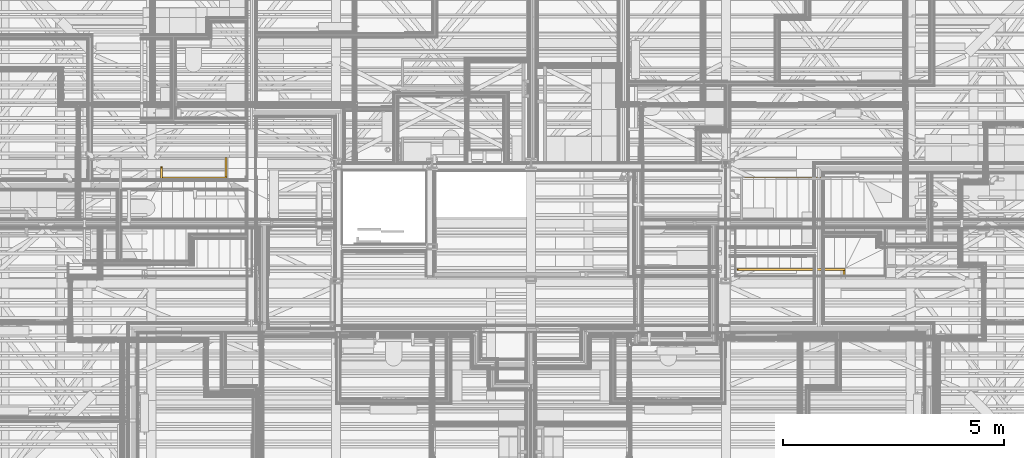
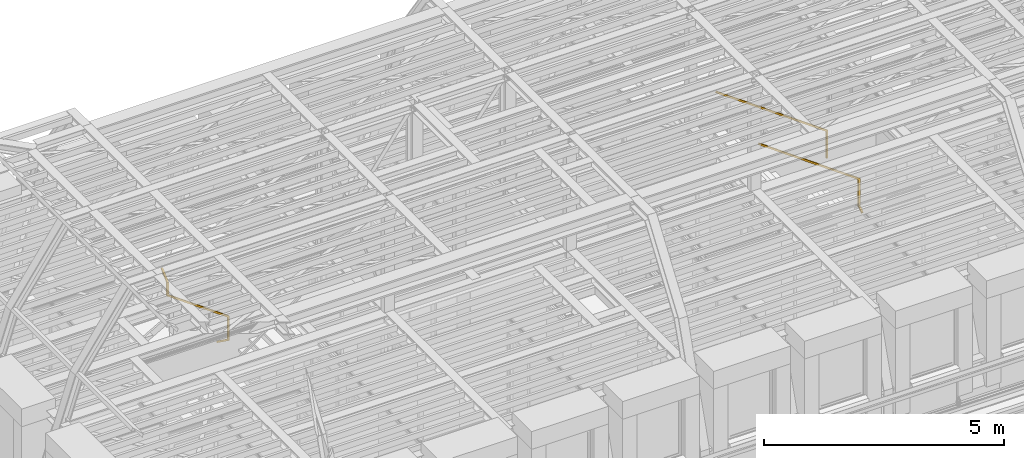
# One storey, part 157 of 183: 3 railings.
"""IFC2X3 building model written with IfcOpenShell, lengths in metres."""

import ifcopenshell
import ifcopenshell.guid

model = None  # the IFC model being written
_history = None  # IfcOwnerHistory: only IFC2X3 demands one
_inside = {}  # id of a spatial element -> (the spatial element, [elements in it])
_under = {}  # id of a project, library or spatial element -> (it, [spatial elements below it])
_declared = {}  # id of a project -> (the project, [libraries it declares])
_typed = {}  # id of a type object -> (the type object, [elements of that type])
_made_of = {}  # id of a material, layer set ... -> (it, [elements and type objects made of it])


def new_model(schema):
    """Start an empty IFC model of exactly this schema.

    Asked for "IFC4X3", IfcOpenShell would pick the latest addendum, in which some entities
    have other attributes; the version numbers below select the first issue.
    IFC2X3 requires an IfcOwnerHistory on every rooted entity: one is made here for all.
    """
    global model, _history
    if schema == "IFC4X3":
        model = ifcopenshell.file(schema_version=(4, 3, 0, 0))
    else:
        model = ifcopenshell.file(schema=schema)
    _inside.clear()
    _under.clear()
    _declared.clear()
    _typed.clear()
    _made_of.clear()
    _history = None
    if model.schema == "IFC2X3":
        org = make("IfcOrganization", Name="unknown")
        user = make(
            "IfcPersonAndOrganization",
            ThePerson=make("IfcPerson", FamilyName="unknown"),
            TheOrganization=org,
        )
        app = make(
            "IfcApplication",
            ApplicationDeveloper=org,
            Version="unknown",
            ApplicationFullName="unknown",
            ApplicationIdentifier="unknown",
        )
        _history = make(
            "IfcOwnerHistory",
            OwningUser=user,
            OwningApplication=app,
            ChangeAction="ADDED",
            CreationDate=0,
        )
    return model


def make(cls, **values):
    """One entity of the class cls with the attributes given. An attribute that is None is left unset."""
    return model.create_entity(
        cls, **{name: value for name, value in values.items() if value is not None}
    )


def entity(cls, *values):
    """Any entity or typed value of the class cls, its attributes in the order of the schema. None: left unset."""
    e = model.create_entity(cls)
    for i, value in enumerate(values):
        if value is not None:
            e[i] = value
    return e


def rooted(cls, **values):
    """An entity with a GlobalId (a new one), such as an element, a storey or a relation."""
    return make(cls, GlobalId=ifcopenshell.guid.new(), OwnerHistory=_history, **values)


def si_unit(unit_type, name, prefix=None):
    """IfcSIUnit, for example si_unit("LENGTHUNIT", "METRE", prefix="MILLI")."""
    return make("IfcSIUnit", UnitType=unit_type, Prefix=prefix, Name=name)


def converted_unit(unit_type, name, factor, base, dimensions=None, offset=None):
    """IfcConversionBasedUnit, such as the inch: factor (a typed value) times the base unit."""
    return make(
        "IfcConversionBasedUnit"
        if offset is None
        else "IfcConversionBasedUnitWithOffset",
        ConversionOffset=offset,
        Dimensions=None
        if dimensions is None
        else entity("IfcDimensionalExponents", *dimensions),
        UnitType=unit_type,
        Name=name,
        ConversionFactor=make(
            "IfcMeasureWithUnit", ValueComponent=factor, UnitComponent=base
        ),
    )


def derived_unit(unit_type, elements):
    """IfcDerivedUnit: a product of units, each with its exponent."""
    return make(
        "IfcDerivedUnit",
        Elements=[
            make("IfcDerivedUnitElement", Unit=unit, Exponent=power)
            for unit, power in elements
        ],
        UnitType=unit_type,
    )


def money_unit(currency):
    """IfcMonetaryUnit."""
    return make("IfcMonetaryUnit", Currency=currency)


def assignment(units):
    """IfcUnitAssignment: the units of a project."""
    return None if units is None else make("IfcUnitAssignment", Units=units)


def point(xyz):
    """IfcCartesianPoint."""
    return None if xyz is None else make("IfcCartesianPoint", Coordinates=xyz)


def direction(xyz):
    """IfcDirection."""
    return None if xyz is None else make("IfcDirection", DirectionRatios=xyz)


def frame(location, z_axis=None, x_axis=None):
    """IfcAxis2Placement3D, a coordinate frame: its origin and axes. An axis left out is left unset."""
    return make(
        "IfcAxis2Placement3D",
        Location=point(location),
        Axis=direction(z_axis),
        RefDirection=direction(x_axis),
    )


def origin_with_axes():
    """The frame at (0, 0, 0) with the z axis (0, 0, 1) and the x axis (1, 0, 0) written out."""
    return frame((0.0, 0.0, 0.0), z_axis=(0.0, 0.0, 1.0), x_axis=(1.0, 0.0, 0.0))


def place(relative_to, where):
    """IfcLocalPlacement: puts the frame where relative to a parent placement (None: the world)."""
    return make(
        "IfcLocalPlacement", PlacementRelTo=relative_to, RelativePlacement=where
    )


def context(
    kind, dimensions, precision=None, world=None, true_north=None, identifier=None
):
    """IfcGeometricRepresentationContext, for example the 3D "Model" context."""
    return make(
        "IfcGeometricRepresentationContext",
        ContextIdentifier=identifier,
        ContextType=kind,
        CoordinateSpaceDimension=dimensions,
        Precision=precision,
        WorldCoordinateSystem=world,
        TrueNorth=true_north,
    )


def subcontext(parent, identifier, kind, view, scale=None):
    """IfcGeometricRepresentationSubContext, for example "Body" below "Model"."""
    return make(
        "IfcGeometricRepresentationSubContext",
        ContextIdentifier=identifier,
        ContextType=kind,
        ParentContext=parent,
        TargetScale=scale,
        TargetView=view,
    )


def project(units=None, contexts=None):
    """IfcProject with its units and contexts."""
    return rooted(
        "IfcProject",
        Name="project",
        RepresentationContexts=contexts,
        UnitsInContext=assignment(units),
    )


def spatial(cls, under=None, at=None, **own):
    """A site, building, storey or space (cls), placed at a placement, below another one or the project."""
    s = rooted(cls, ObjectPlacement=at, **own)
    if under is not None:
        _under.setdefault(under.id(), (under, []))[1].append(s)
    return s


def faces_of(points, faces, orient=None, outer=None):
    """IfcFace entities. A face is a list of loops; a loop is a list of indices into points, from 0.

    orient and outer hold one flag for each loop. By default every Orientation is true, the
    first loop of a face is its IfcFaceOuterBound and the others are IfcFaceBound.
    """
    made = []
    for i, loops in enumerate(faces):
        bounds = []
        for j, loop in enumerate(loops):
            is_outer = j == 0 if outer is None else outer[i][j]
            bounds.append(
                make(
                    "IfcFaceOuterBound" if is_outer else "IfcFaceBound",
                    Bound=make("IfcPolyLoop", Polygon=[points[k] for k in loop]),
                    Orientation=True if orient is None else orient[i][j],
                )
            )
        made.append(make("IfcFace", Bounds=bounds))
    return made


def faceted_brep(points, faces, orient=None, outer=None, voids=None):
    """IfcFacetedBrep: a solid bounded by flat faces; with voids (closed shells), ...WithVoids."""
    shared = [point(p) for p in points]
    hull = make("IfcClosedShell", CfsFaces=faces_of(shared, faces, orient, outer))
    if voids is None:
        return make("IfcFacetedBrep", Outer=hull)
    return make(
        "IfcFacetedBrepWithVoids",
        Outer=hull,
        Voids=[
            make(cls, CfsFaces=faces_of(shared, fs, o, b)) for cls, fs, o, b in voids
        ],
    )


def shape(context_of_items, identifier, shape_type, items):
    """IfcShapeRepresentation: the items that make up one representation, for example the "Body"."""
    return make(
        "IfcShapeRepresentation",
        ContextOfItems=context_of_items,
        RepresentationIdentifier=identifier,
        RepresentationType=shape_type,
        Items=items,
    )


def material(Name=None, Category=None):
    """IfcMaterial."""
    return make("IfcMaterial", Name=Name, Category=Category)


def made_of(thing, what):
    """Note that an element or type object is made of a material, layer set ...; save() writes the relation."""
    if what is not None:
        _made_of.setdefault(what.id(), (what, []))[1].append(thing)
    return thing


def type_object(cls, material=None, **own):
    """A type object (cls), such as IfcWallType, which elements share."""
    return made_of(rooted(cls, **own), material)


def element(
    cls,
    number,
    at=None,
    inside=None,
    cuts=None,
    type_object=None,
    material=None,
    context=None,
    identifier="Body",
    shape_type=None,
    held_by="IfcProductDefinitionShape",
    body=None,
    shapes=None,
    **own,
):
    """One element of the class cls, such as IfcWall. Its Tag is "e" and its number.

    at: its placement. inside: the storey or other place that contains it. cuts: it is an
    opening in that element (IfcRelVoidsElement). A single representation is given by context,
    identifier, shape_type and body (its items); several are given by shapes. held_by: the class
    of the entity that holds the representations. save() writes the other relations.
    """
    e = rooted(cls, Tag="e%d" % number, ObjectPlacement=at, **own)
    if body is not None:
        shapes = [shape(context, identifier, shape_type, body)]
    if shapes is not None:
        e.Representation = make(held_by, Representations=shapes)
    if inside is not None:
        _inside.setdefault(inside.id(), (inside, []))[1].append(e)
    if cuts is not None:
        rooted(
            "IfcRelVoidsElement", RelatingBuildingElement=cuts, RelatedOpeningElement=e
        )
    if type_object is not None:
        _typed.setdefault(type_object.id(), (type_object, []))[1].append(e)
    return made_of(e, material)


def aggregate(whole, parts):
    """IfcRelAggregates: a whole, such as a stair, and the parts it consists of."""
    return rooted("IfcRelAggregates", RelatingObject=whole, RelatedObjects=parts)


def save(model, path):
    """Write the relations noted so far, then the file.

    IfcRelAggregates (storeys below a building ...), IfcRelContainedInSpatialStructure (elements
    in a storey), IfcRelDefinesByType, IfcRelAssociatesMaterial and IfcRelDeclares: one each for
    every whole, place, type object, material and project.
    """
    for whole, parts in _under.values():
        aggregate(whole, parts)
    for where, things in _inside.values():
        rooted(
            "IfcRelContainedInSpatialStructure",
            RelatedElements=things,
            RelatingStructure=where,
        )
    for kind, things in _typed.values():
        rooted("IfcRelDefinesByType", RelatedObjects=things, RelatingType=kind)
    for what, things in _made_of.values():
        rooted("IfcRelAssociatesMaterial", RelatedObjects=things, RelatingMaterial=what)
    for by, libraries in _declared.values():
        rooted("IfcRelDeclares", RelatingContext=by, RelatedDefinitions=libraries)
    model.write(path)


model = new_model("IFC2X3")

# Units and contexts
model_context = context("Model", 3, precision=1e-05, world=origin_with_axes(), true_north=direction((0.0, 1.0)))
body_context = subcontext(model_context, "Body", "Model", "MODEL_VIEW", scale=1.0)
ifc_project = project(units=[si_unit("LENGTHUNIT", "METRE"), si_unit("AREAUNIT", "SQUARE_METRE"), si_unit("VOLUMEUNIT", "CUBIC_METRE"), si_unit("ABSORBEDDOSEUNIT", "GRAY"), si_unit("AMOUNTOFSUBSTANCEUNIT", "MOLE"), si_unit("DOSEEQUIVALENTUNIT", "SIEVERT"), si_unit("ELECTRICCAPACITANCEUNIT", "FARAD"), si_unit("ELECTRICCHARGEUNIT", "COULOMB"), si_unit("ELECTRICCONDUCTANCEUNIT", "SIEMENS"), si_unit("ELECTRICCURRENTUNIT", "AMPERE"), si_unit("ELECTRICRESISTANCEUNIT", "OHM"), si_unit("ELECTRICVOLTAGEUNIT", "VOLT"), si_unit("ENERGYUNIT", "JOULE"), si_unit("FORCEUNIT", "NEWTON"), si_unit("FREQUENCYUNIT", "HERTZ"), si_unit("ILLUMINANCEUNIT", "LUX"), si_unit("INDUCTANCEUNIT", "HENRY"), si_unit("LUMINOUSFLUXUNIT", "LUMEN"), si_unit("LUMINOUSINTENSITYUNIT", "CANDELA"), si_unit("MAGNETICFLUXDENSITYUNIT", "TESLA"), si_unit("MAGNETICFLUXUNIT", "WEBER"), si_unit("MASSUNIT", "GRAM"), converted_unit("PLANEANGLEUNIT", "degree", entity("IfcReal", 0.0174532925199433), si_unit("PLANEANGLEUNIT", "RADIAN"), dimensions=[0, 0, 0, 0, 0, 0, 0]), si_unit("POWERUNIT", "WATT"), si_unit("PRESSUREUNIT", "PASCAL"), si_unit("RADIOACTIVITYUNIT", "BECQUEREL"), si_unit("SOLIDANGLEUNIT", "STERADIAN"), si_unit("THERMODYNAMICTEMPERATUREUNIT", "KELVIN"), si_unit("TIMEUNIT", "SECOND"), derived_unit("ACCELERATIONUNIT", [(si_unit("LENGTHUNIT", "METRE"), 1), (si_unit("TIMEUNIT", "SECOND"), -2)]), derived_unit("ANGULARVELOCITYUNIT", [(converted_unit("PLANEANGLEUNIT", "degree", entity("IfcReal", 0.0174532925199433), si_unit("PLANEANGLEUNIT", "RADIAN"), dimensions=[0, 0, 0, 0, 0, 0, 0]), 1), (si_unit("TIMEUNIT", "SECOND"), -1)]), derived_unit("CURVATUREUNIT", [(converted_unit("PLANEANGLEUNIT", "degree", entity("IfcReal", 0.0174532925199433), si_unit("PLANEANGLEUNIT", "RADIAN"), dimensions=[0, 0, 0, 0, 0, 0, 0]), 1), (si_unit("LENGTHUNIT", "METRE"), -1)]), derived_unit("DYNAMICVISCOSITYUNIT", [(si_unit("PRESSUREUNIT", "PASCAL"), 1), (si_unit("TIMEUNIT", "SECOND"), 1)]), derived_unit("HEATFLUXDENSITYUNIT", [(si_unit("POWERUNIT", "WATT"), 1), (si_unit("LENGTHUNIT", "METRE"), -2)]), derived_unit("HEATINGVALUEUNIT", [(si_unit("ENERGYUNIT", "JOULE"), 1), (si_unit("MASSUNIT", "GRAM"), -1)]), derived_unit("INTEGERCOUNTRATEUNIT", [(si_unit("TIMEUNIT", "SECOND"), -1)]), derived_unit("IONCONCENTRATIONUNIT", [(si_unit("MASSUNIT", "GRAM"), 1), (si_unit("VOLUMEUNIT", "CUBIC_METRE"), -1)]), derived_unit("ISOTHERMALMOISTURECAPACITYUNIT", [(si_unit("VOLUMEUNIT", "CUBIC_METRE"), 1), (si_unit("MASSUNIT", "GRAM"), -1)]), derived_unit("KINEMATICVISCOSITYUNIT", [(si_unit("AREAUNIT", "SQUARE_METRE"), 1), (si_unit("TIMEUNIT", "SECOND"), -1)]), derived_unit("LINEARFORCEUNIT", [(si_unit("FORCEUNIT", "NEWTON"), 1), (si_unit("LENGTHUNIT", "METRE"), -1)]), derived_unit("LINEARMOMENTUNIT", [(si_unit("FORCEUNIT", "NEWTON"), 1), (si_unit("LENGTHUNIT", "METRE"), -1)]), derived_unit("LINEARSTIFFNESSUNIT", [(si_unit("FORCEUNIT", "NEWTON"), 1), (si_unit("LENGTHUNIT", "METRE"), -1)]), derived_unit("LINEARVELOCITYUNIT", [(si_unit("LENGTHUNIT", "METRE"), 1), (si_unit("TIMEUNIT", "SECOND"), -1)]), derived_unit("LUMINOUSINTENSITYDISTRIBUTIONUNIT", [(si_unit("LUMINOUSINTENSITYUNIT", "CANDELA"), 1), (si_unit("LUMINOUSFLUXUNIT", "LUMEN"), -1)]), derived_unit("MASSDENSITYUNIT", [(si_unit("MASSUNIT", "GRAM"), 1), (si_unit("VOLUMEUNIT", "CUBIC_METRE"), -1)]), derived_unit("MASSFLOWRATEUNIT", [(si_unit("MASSUNIT", "GRAM"), 1), (si_unit("TIMEUNIT", "SECOND"), -1)]), derived_unit("MASSPERLENGTHUNIT", [(si_unit("MASSUNIT", "GRAM"), 1), (si_unit("LENGTHUNIT", "METRE"), -1)]), derived_unit("MODULUSOFELASTICITYUNIT", [(si_unit("FORCEUNIT", "NEWTON"), 1), (si_unit("AREAUNIT", "SQUARE_METRE"), -1)]), derived_unit("MODULUSOFLINEARSUBGRADEREACTIONUNIT", [(si_unit("FORCEUNIT", "NEWTON"), 1), (si_unit("LENGTHUNIT", "METRE"), -2)]), derived_unit("MODULUSOFROTATIONALSUBGRADEREACTIONUNIT", [(si_unit("FORCEUNIT", "NEWTON"), 1), (si_unit("LENGTHUNIT", "METRE"), 1)]), derived_unit("MODULUSOFSUBGRADEREACTIONUNIT", [(si_unit("FORCEUNIT", "NEWTON"), 1), (si_unit("VOLUMEUNIT", "CUBIC_METRE"), -1)]), derived_unit("MOISTUREDIFFUSIVITYUNIT", [(si_unit("VOLUMEUNIT", "CUBIC_METRE"), 1), (si_unit("TIMEUNIT", "SECOND"), -1)]), derived_unit("MOLECULARWEIGHTUNIT", [(si_unit("MASSUNIT", "GRAM"), 1), (si_unit("AMOUNTOFSUBSTANCEUNIT", "MOLE"), -1)]), derived_unit("PLANARFORCEUNIT", [(si_unit("FORCEUNIT", "NEWTON"), 1), (si_unit("LENGTHUNIT", "METRE"), -2)]), derived_unit("ROTATIONALFREQUENCYUNIT", [(si_unit("TIMEUNIT", "SECOND"), -1)]), derived_unit("ROTATIONALMASSUNIT", [(si_unit("MASSUNIT", "GRAM"), 1), (si_unit("LENGTHUNIT", "METRE"), 2)]), derived_unit("ROTATIONALSTIFFNESSUNIT", [(si_unit("FORCEUNIT", "NEWTON"), 1), (si_unit("LENGTHUNIT", "METRE"), 1), (converted_unit("PLANEANGLEUNIT", "degree", entity("IfcReal", 0.0174532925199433), si_unit("PLANEANGLEUNIT", "RADIAN"), dimensions=[0, 0, 0, 0, 0, 0, 0]), -1)]), derived_unit("SECTIONAREAINTEGRALUNIT", [(si_unit("LENGTHUNIT", "METRE"), 5)]), derived_unit("SECTIONMODULUSUNIT", [(si_unit("LENGTHUNIT", "METRE"), 3)]), derived_unit("SHEARMODULUSUNIT", [(si_unit("FORCEUNIT", "NEWTON"), 1), (si_unit("AREAUNIT", "SQUARE_METRE"), -1)]), derived_unit("SOUNDPOWERUNIT", [(si_unit("ENERGYUNIT", "JOULE"), 1), (si_unit("TIMEUNIT", "SECOND"), -1)]), derived_unit("SPECIFICHEATCAPACITYUNIT", [(si_unit("FORCEUNIT", "NEWTON"), 1), (si_unit("MASSUNIT", "GRAM"), -1), (si_unit("THERMODYNAMICTEMPERATUREUNIT", "KELVIN"), -1)]), derived_unit("TEMPERATUREGRADIENTUNIT", [(si_unit("THERMODYNAMICTEMPERATUREUNIT", "KELVIN"), 1), (si_unit("LENGTHUNIT", "METRE"), -1)]), derived_unit("THERMALADMITTANCEUNIT", [(si_unit("POWERUNIT", "WATT"), 1), (si_unit("AREAUNIT", "SQUARE_METRE"), -1), (si_unit("THERMODYNAMICTEMPERATUREUNIT", "KELVIN"), -1)]), derived_unit("THERMALCONDUCTANCEUNIT", [(si_unit("POWERUNIT", "WATT"), 1), (si_unit("LENGTHUNIT", "METRE"), -1), (si_unit("THERMODYNAMICTEMPERATUREUNIT", "KELVIN"), -1)]), derived_unit("THERMALEXPANSIONCOEFFICIENTUNIT", [(si_unit("THERMODYNAMICTEMPERATUREUNIT", "KELVIN"), -1)]), derived_unit("THERMALRESISTANCEUNIT", [(si_unit("AREAUNIT", "SQUARE_METRE"), 1), (si_unit("POWERUNIT", "WATT"), -1)]), derived_unit("THERMALTRANSMITTANCEUNIT", [(si_unit("POWERUNIT", "WATT"), 1), (si_unit("AREAUNIT", "SQUARE_METRE"), -1), (si_unit("THERMODYNAMICTEMPERATUREUNIT", "KELVIN"), -1)]), derived_unit("TORQUEUNIT", [(si_unit("FORCEUNIT", "NEWTON"), 1), (si_unit("LENGTHUNIT", "METRE"), 1)]), derived_unit("VAPORPERMEABILITYUNIT", [(si_unit("MASSUNIT", "GRAM"), 1), (si_unit("TIMEUNIT", "SECOND"), -1)]), derived_unit("VOLUMETRICFLOWRATEUNIT", [(si_unit("VOLUMEUNIT", "CUBIC_METRE"), 1), (si_unit("TIMEUNIT", "SECOND"), -1)]), derived_unit("WARPINGCONSTANTUNIT", [(si_unit("LENGTHUNIT", "METRE"), 6)]), derived_unit("WARPINGMOMENTUNIT", [(si_unit("FORCEUNIT", "NEWTON"), 1), (si_unit("LENGTHUNIT", "METRE"), 2)]), money_unit("GBP")], contexts=[model_context])

# Site, building, storey
site_placement = place(None, origin_with_axes())
site = spatial("IfcSite", under=ifc_project, at=site_placement, Name="Site", CompositionType="ELEMENT")
building_placement = place(site_placement, origin_with_axes())
building = spatial("IfcBuilding", under=site, at=building_placement, Name="Building01", CompositionType="ELEMENT")
storey_placement = place(building_placement, frame((0.0, 0.0, 5.15), z_axis=(0.0, 0.0, 1.0), x_axis=(1.0, 0.0, 0.0)))
storey = spatial("IfcBuildingStorey", under=building, at=storey_placement, Name="1F", CompositionType="ELEMENT", Elevation=5.15)

# Railings
ifc_material = material(Name="A_BSUK_Steel_Miscellaneous")
railing_type = type_object("IfcRailingType", Name="S-Handrail-900mm", PredefinedType="NOTDEFINED")
railing_1_placement = place(storey_placement, frame((18.354963, 8.387965, 12.477813), z_axis=(0.0, 0.0, 1.0), x_axis=(1.0, 0.0, 0.0)))
element("IfcRailing", 1, at=railing_1_placement, inside=storey, type_object=railing_type, material=ifc_material, Name="S-Handrail-900mm", ObjectType="S-Handrail-900mm", PredefinedType="HANDRAIL", context=body_context, shape_type="Brep", body=[
    faceted_brep([(-0.023372, 0.08, 0.867539), (0.0, 0.08, 0.9), (0.0, 0.12, 0.9), (-0.023372, 0.12, 0.867539), (-0.021035, 0.084, 0.870785), (-0.021035, 0.116, 0.870785), (-0.002337, 0.116, 0.896754), (-0.002337, 0.084, 0.896754), (2.626962, 0.12, -1.040702), (2.626962, 0.08, -1.040702), (2.666962, 0.08, -1.020213), (2.666962, 0.12, -1.020213), (2.630962, 0.116, -1.038653), (2.630962, 0.084, -1.038653), (2.662962, 0.084, -1.022262), (2.662962, 0.116, -1.022262)], [[[0, 1, 2, 3], [4, 5, 6, 7]], [[8, 9, 0, 3]], [[9, 10, 1, 0]], [[10, 11, 2, 1]], [[11, 8, 3, 2]], [[12, 5, 4, 13]], [[13, 4, 7, 14]], [[14, 7, 6, 15]], [[15, 6, 5, 12]], [[8, 11, 10, 9], [12, 13, 14, 15]]]),
    faceted_brep([(2.666962, 0.08, -1.020213), (2.626962, 0.08, -1.040702), (2.626962, 0.08, -1.724702), (2.666962, 0.08, -1.724702), (2.666962, 0.12, -1.704213), (2.666962, 0.12, -1.020213), (2.626962, 0.12, -1.704213), (2.626962, 0.12, -1.040702), (2.630962, 0.084, -1.722653), (2.630962, 0.084, -1.038653), (2.662962, 0.084, -1.022262), (2.662962, 0.084, -1.722653), (2.662962, 0.116, -1.022262), (2.662962, 0.116, -1.706262), (2.630962, 0.116, -1.038653), (2.630962, 0.116, -1.706262)], [[[0, 1, 2, 3]], [[3, 4, 5, 0]], [[4, 6, 7, 5]], [[6, 2, 1, 7]], [[8, 9, 10, 11]], [[11, 10, 12, 13]], [[13, 12, 14, 15]], [[15, 14, 9, 8]], [[0, 5, 7, 1], [10, 9, 14, 12]], [[2, 6, 4, 3], [8, 11, 13, 15]]]),
    faceted_brep([(2.666962, 0.08, -1.724702), (2.666962, 0.12, -1.704213), (2.626962, 0.12, -1.704213), (2.626962, 0.08, -1.724702), (2.662962, 0.084, -1.722653), (2.630962, 0.084, -1.722653), (2.630962, 0.116, -1.706262), (2.662962, 0.116, -1.706262), (2.626962, 0.096628, -1.736674), (2.666962, 0.096628, -1.736674), (2.662962, 0.098965, -1.733428), (2.662962, 0.117663, -1.707459), (2.630962, 0.117663, -1.707459), (2.630962, 0.098965, -1.733428)], [[[0, 1, 2, 3], [4, 5, 6, 7]], [[8, 2, 1, 9], [10, 11, 12, 13]], [[0, 3, 8, 9]], [[1, 0, 9]], [[3, 2, 8]], [[4, 10, 13, 5]], [[7, 11, 10, 4]], [[6, 12, 11, 7]], [[5, 13, 12, 6]]]),
])
railing_2_placement = place(storey_placement, frame((20.680471, 6.261865, 9.96), z_axis=(0.0, 0.0, 1.0), x_axis=(1.0, 0.0, 0.0)))
element("IfcRailing", 2, at=railing_2_placement, inside=storey, type_object=railing_type, material=ifc_material, Name="S-Handrail-900mm", ObjectType="S-Handrail-900mm", PredefinedType="HANDRAIL", context=body_context, shape_type="Brep", body=[
    faceted_brep([(-0.08, 0.023372, 0.867539), (-0.08, 0.0, 0.9), (-0.12, 0.0, 0.9), (-0.12, 0.023372, 0.867539), (-0.084, 0.021035, 0.870785), (-0.116, 0.021035, 0.870785), (-0.116, 0.002337, 0.896754), (-0.084, 0.002337, 0.896754), (-0.12, 0.17, 0.973111), (-0.08, 0.17, 0.973111), (-0.08, 0.13, 0.9936), (-0.12, 0.13, 0.9936), (-0.116, 0.166, 0.97516), (-0.084, 0.166, 0.97516), (-0.084, 0.134, 0.991551), (-0.116, 0.134, 0.991551)], [[[0, 1, 2, 3], [4, 5, 6, 7]], [[8, 9, 0, 3]], [[9, 10, 1, 0]], [[10, 11, 2, 1]], [[11, 8, 3, 2]], [[12, 5, 4, 13]], [[13, 4, 7, 14]], [[14, 7, 6, 15]], [[15, 6, 5, 12]], [[8, 11, 10, 9], [12, 13, 14, 15]]]),
    faceted_brep([(-0.12, 0.17, 1.657111), (-0.08, 0.17, 1.6776), (-0.08, 0.17, 0.973111), (-0.12, 0.17, 0.973111), (-0.08, 0.13, 0.9936), (-0.08, 0.13, 1.6776), (-0.12, 0.13, 1.657111), (-0.12, 0.13, 0.9936), (-0.116, 0.166, 1.65916), (-0.116, 0.166, 0.97516), (-0.084, 0.166, 0.97516), (-0.084, 0.166, 1.675551), (-0.084, 0.134, 0.991551), (-0.084, 0.134, 1.675551), (-0.116, 0.134, 0.991551), (-0.116, 0.134, 1.65916)], [[[0, 1, 2, 3]], [[4, 2, 1, 5]], [[5, 6, 7, 4]], [[6, 0, 3, 7]], [[8, 9, 10, 11]], [[11, 10, 12, 13]], [[13, 12, 14, 15]], [[15, 14, 9, 8]], [[2, 4, 7, 3], [10, 9, 14, 12]], [[0, 6, 5, 1], [8, 11, 13, 15]]]),
    faceted_brep([(-2.273372, 0.13, 3.207539), (-2.25, 0.13, 3.24), (-2.25, 0.17, 3.24), (-2.273372, 0.17, 3.207539), (-2.271035, 0.166, 3.210785), (-2.252337, 0.166, 3.236754), (-2.252337, 0.134, 3.236754), (-2.271035, 0.134, 3.210785), (-0.12, 0.17, 1.657111), (-0.12, 0.13, 1.657111), (-0.08, 0.17, 1.6776), (-0.08, 0.13, 1.6776), (-0.116, 0.166, 1.65916), (-0.116, 0.134, 1.65916), (-0.084, 0.166, 1.675551), (-0.084, 0.134, 1.675551)], [[[0, 1, 2, 3], [4, 5, 6, 7]], [[8, 9, 0, 3]], [[10, 8, 3, 2]], [[11, 10, 2, 1]], [[9, 11, 1, 0]], [[12, 4, 7, 13]], [[14, 5, 4, 12]], [[15, 6, 5, 14]], [[13, 7, 6, 15]], [[8, 10, 11, 9], [12, 13, 15, 14]]]),
    faceted_brep([(-2.273372, 0.17, 3.207539), (-2.25, 0.17, 3.24), (-2.25, 0.13, 3.24), (-2.273372, 0.13, 3.207539), (-2.271035, 0.166, 3.210785), (-2.271035, 0.134, 3.210785), (-2.252337, 0.134, 3.236754), (-2.252337, 0.166, 3.236754), (-2.523372, 0.13, 3.387539), (-2.5, 0.13, 3.42), (-2.5, 0.17, 3.42), (-2.523372, 0.17, 3.387539), (-2.521035, 0.166, 3.390785), (-2.502337, 0.166, 3.416754), (-2.502337, 0.134, 3.416754), (-2.521035, 0.134, 3.390785)], [[[0, 1, 2, 3], [4, 5, 6, 7]], [[8, 9, 10, 11], [12, 13, 14, 15]], [[11, 0, 3, 8]], [[10, 1, 0, 11]], [[9, 2, 1, 10]], [[8, 3, 2, 9]], [[15, 5, 4, 12]], [[12, 4, 7, 13]], [[13, 7, 6, 14]], [[14, 6, 5, 15]]]),
])
railing_3_placement = place(storey_placement, frame((5.04001, 8.71449, 12.477524), z_axis=(0.0, 0.0, 1.0), x_axis=(1.0, 0.0, 0.0)))
element("IfcRailing", 3, at=railing_3_placement, inside=storey, type_object=railing_type, material=ifc_material, Name="S-Handrail-900mm", ObjectType="S-Handrail-900mm", PredefinedType="HANDRAIL", context=body_context, shape_type="Brep", body=[
    faceted_brep([(0.080004, 0.027012, 0.870508), (0.08, -1.1e-05, 0.9), (0.12, -1.7e-05, 0.9), (0.120004, 0.027006, 0.870508), (0.084003, 0.024309, 0.873458), (0.116003, 0.024304, 0.873458), (0.116, 0.002686, 0.897051), (0.084, 0.00269, 0.897051), (0.119971, -0.206553, 0.6565), (0.079971, -0.206548, 0.6565), (0.079965, -0.246548, 0.674101), (0.119965, -0.246553, 0.674101), (0.11597, -0.210553, 0.65826), (0.08397, -0.210548, 0.65826), (0.083965, -0.242548, 0.672341), (0.115965, -0.242553, 0.672341)], [[[0, 1, 2, 3], [4, 5, 6, 7]], [[8, 9, 0, 3]], [[9, 10, 1, 0]], [[10, 11, 2, 1]], [[11, 8, 3, 2]], [[12, 5, 4, 13]], [[13, 4, 7, 14]], [[14, 7, 6, 15]], [[15, 6, 5, 12]], [[8, 11, 10, 9], [12, 13, 14, 15]]]),
    faceted_brep([(0.119971, -0.246548, 0.45781), (0.119965, -0.206548, 0.457808), (0.119965, -0.206548, 0.656497), (0.119971, -0.246548, 0.674098), (0.079965, -0.206553, 0.443245), (0.079965, -0.206553, 0.656502), (0.079971, -0.246553, 0.443247), (0.079971, -0.246553, 0.674103), (0.11597, -0.242548, 0.456353), (0.11597, -0.242548, 0.672339), (0.115965, -0.210548, 0.658258), (0.115965, -0.210548, 0.456352), (0.083965, -0.210553, 0.658262), (0.083965, -0.210553, 0.444701), (0.08397, -0.242553, 0.672343), (0.08397, -0.242553, 0.444703)], [[[0, 1, 2, 3]], [[1, 4, 5, 2]], [[4, 6, 7, 5]], [[6, 0, 3, 7]], [[8, 9, 10, 11]], [[11, 10, 12, 13]], [[13, 12, 14, 15]], [[15, 14, 9, 8]], [[2, 5, 7, 3], [10, 9, 14, 12]], [[0, 6, 4, 1], [8, 11, 13, 15]]]),
    faceted_brep([(0.07999, -0.20655, 0.443219), (0.07999, -0.24655, 0.443219), (0.079968, -0.24655, 0.443246), (0.079968, -0.20655, 0.443246), (0.11999, -0.24655, 0.457782), (0.119968, -0.24655, 0.457809), (0.119968, -0.20655, 0.457809), (0.11999, -0.20655, 0.457782), (0.08399, -0.21055, 0.444675), (0.083968, -0.21055, 0.444702), (0.083968, -0.24255, 0.444702), (0.08399, -0.24255, 0.444675), (0.115968, -0.24255, 0.456353), (0.11599, -0.24255, 0.456326), (0.115968, -0.21055, 0.456353), (0.11599, -0.21055, 0.456326)], [[[0, 1, 2, 3]], [[1, 4, 5, 2]], [[6, 5, 4, 7]], [[7, 0, 3, 6]], [[8, 9, 10, 11]], [[11, 10, 12, 13]], [[13, 12, 14, 15]], [[15, 14, 9, 8]], [[2, 5, 6, 3], [10, 9, 14, 12]], [[0, 7, 4, 1], [8, 11, 13, 15]]]),
    faceted_brep([(0.07999, -0.24655, 0.327587), (0.11999, -0.24655, 0.348076), (0.11999, -0.24655, 0.457782), (0.07999, -0.24655, 0.443219), (0.11999, -0.20655, 0.348076), (0.11999, -0.20655, 0.457782), (0.07999, -0.20655, 0.327587), (0.07999, -0.20655, 0.443219), (0.08399, -0.24255, 0.329636), (0.08399, -0.24255, 0.444675), (0.11599, -0.24255, 0.456326), (0.11599, -0.24255, 0.346027), (0.11599, -0.21055, 0.456326), (0.11599, -0.21055, 0.346027), (0.08399, -0.21055, 0.444675), (0.08399, -0.21055, 0.329636)], [[[0, 1, 2, 3]], [[1, 4, 5, 2]], [[4, 6, 7, 5]], [[3, 7, 6, 0]], [[8, 9, 10, 11]], [[11, 10, 12, 13]], [[13, 12, 14, 15]], [[15, 14, 9, 8]], [[2, 5, 7, 3], [10, 9, 14, 12]], [[0, 6, 4, 1], [8, 11, 13, 15]]]),
    faceted_brep([(1.54199, -0.20655, -0.725053), (1.54199, -0.24655, -0.725053), (0.07999, -0.24655, 0.327587), (0.07999, -0.20655, 0.327587), (1.58199, -0.24655, -0.704564), (0.11999, -0.24655, 0.348076), (0.11999, -0.20655, 0.348076), (1.58199, -0.20655, -0.704564), (1.54599, -0.21055, -0.723004), (0.08399, -0.21055, 0.329636), (0.08399, -0.24255, 0.329636), (1.54599, -0.24255, -0.723004), (0.11599, -0.24255, 0.346027), (1.57799, -0.24255, -0.706613), (0.11599, -0.21055, 0.346027), (1.57799, -0.21055, -0.706613)], [[[0, 1, 2, 3]], [[1, 4, 5, 2]], [[6, 5, 4, 7]], [[7, 0, 3, 6]], [[8, 9, 10, 11]], [[11, 10, 12, 13]], [[13, 12, 14, 15]], [[15, 14, 9, 8]], [[2, 5, 6, 3], [10, 9, 14, 12]], [[0, 7, 4, 1], [8, 11, 13, 15]]]),
    faceted_brep([(1.58199, -0.24655, -0.704564), (1.54199, -0.24655, -0.725053), (1.54199, -0.24655, -1.319773), (1.58199, -0.24655, -1.319773), (1.58199, -0.20655, -1.299284), (1.58199, -0.20655, -0.704564), (1.54199, -0.20655, -1.299284), (1.54199, -0.20655, -0.725053), (1.54599, -0.24255, -1.317724), (1.54599, -0.24255, -0.723004), (1.57799, -0.24255, -0.706613), (1.57799, -0.24255, -1.317724), (1.57799, -0.21055, -0.706613), (1.57799, -0.21055, -1.301333), (1.54599, -0.21055, -0.723004), (1.54599, -0.21055, -1.301333)], [[[0, 1, 2, 3]], [[3, 4, 5, 0]], [[4, 6, 7, 5]], [[6, 2, 1, 7]], [[8, 9, 10, 11]], [[11, 10, 12, 13]], [[13, 12, 14, 15]], [[15, 14, 9, 8]], [[0, 5, 7, 1], [10, 9, 14, 12]], [[2, 6, 4, 3], [8, 11, 13, 15]]]),
    faceted_brep([(1.54199, 0.212077, -1.649985), (1.54199, 0.23545, -1.617524), (1.58199, 0.23545, -1.617524), (1.58199, 0.212077, -1.649985), (1.57799, 0.214415, -1.646739), (1.57799, 0.233112, -1.62077), (1.54599, 0.233112, -1.62077), (1.54599, 0.214415, -1.646739), (1.58199, -0.24655, -1.319773), (1.54199, -0.24655, -1.319773), (1.58199, -0.20655, -1.299284), (1.54199, -0.20655, -1.299284), (1.57799, -0.24255, -1.317724), (1.54599, -0.24255, -1.317724), (1.57799, -0.21055, -1.301333), (1.54599, -0.21055, -1.301333)], [[[0, 1, 2, 3], [4, 5, 6, 7]], [[8, 9, 0, 3]], [[10, 8, 3, 2]], [[11, 10, 2, 1]], [[9, 11, 1, 0]], [[12, 4, 7, 13]], [[14, 5, 4, 12]], [[15, 6, 5, 14]], [[13, 7, 6, 15]], [[8, 10, 11, 9], [12, 13, 15, 14]]]),
])

save(model, "model.ifc")
